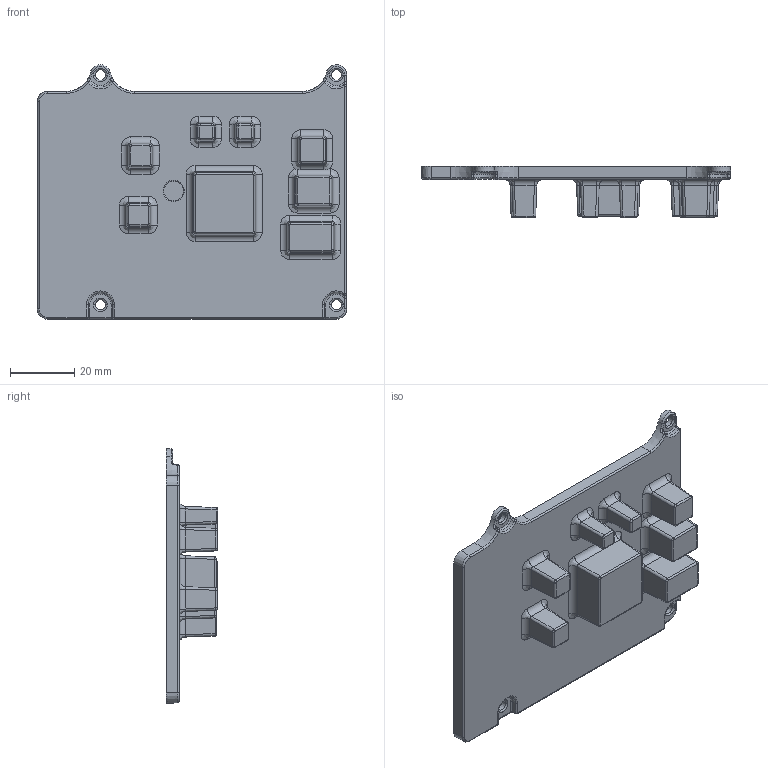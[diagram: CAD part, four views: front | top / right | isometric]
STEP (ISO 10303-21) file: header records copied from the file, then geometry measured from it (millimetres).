
FILE_DESCRIPTION((''),'2;1');
FILE_NAME('CU_153901-02','2015-09-25T',('jbuhisan'),(''),'PRO/ENGINEER BY PARAMETRIC TECHNOLOGY CORPORATION, 2014000','PRO/ENGINEER BY PARAMETRIC TECHNOLOGY CORPORATION, 2014000','');
FILE_SCHEMA(('CONFIG_CONTROL_DESIGN'));
Length unit declared in the file: inch
Products named in the file (1): CU_153901-02
Bounding box: 96.52 x 16.01 x 79.41 mm (x, y, z)
Volume: 37759.5 mm3; surface area: 18314 mm2
Topology: 1 solids, 1 shells, 306 faces, 691 edges, 395 vertices
Faces by surface type: cylinder 115, bspline 77, plane 55, torus 31, cone 20, sphere 8
Entity records: 11770 total; most frequent: CARTESIAN_POINT 5356, ORIENTED_EDGE 1382, DIRECTION 1266, EDGE_CURVE 691, AXIS2_PLACEMENT_3D 504, VERTEX_POINT 395, EDGE_LOOP 322, FACE_OUTER_BOUND 306
